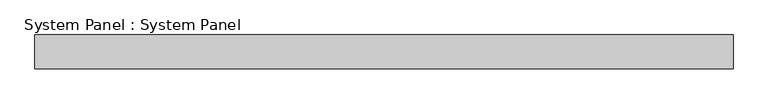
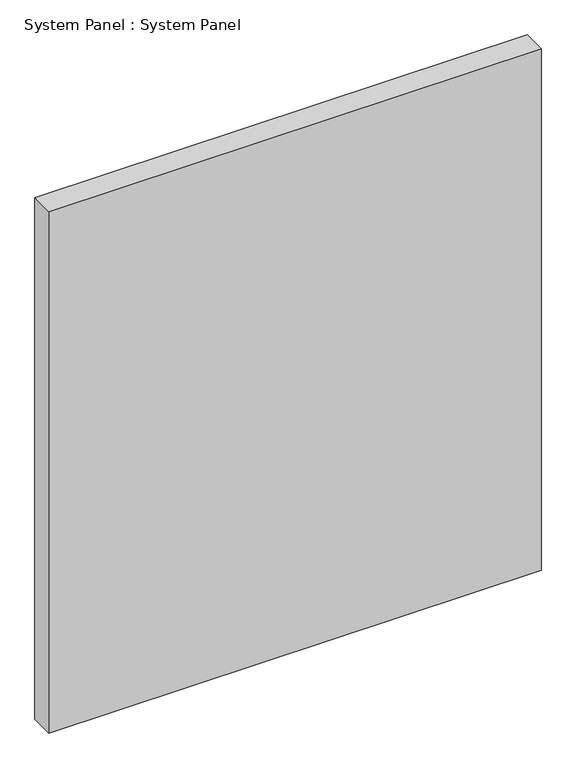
"""IFC4 building model written with IfcOpenShell, lengths in millimetres: plate geometry, System Panel : System Panel."""

from ifc_helpers import new_model, si_unit, origin, origin_with_axes, place, context, project, spatial, polyline, outline, extrude, source, transform, mapped, element, save


def system_panel_system_panel_769dcaa2(model_context):
    return source(origin(), model_context, "Body", "SweptSolid", [
        extrude(outline(polyline([(1054.8694758, -50.8), (-1054.8694758, -50.8), (-1054.8694758, 50.8), (1054.8694758, 50.8), (1054.8694758, -50.8)])), origin_with_axes(), (0.0, 0.0, 1.0), 2362.2),
    ])


if __name__ == "__main__":
    model = new_model("IFC4")
    model_context = context("Model", 3, world=origin())
    ifc_project = project(units=[si_unit("LENGTHUNIT", "METRE", prefix="MILLI")], contexts=[model_context])
    site = spatial("IfcSite", under=ifc_project)
    building = spatial("IfcBuilding", under=site)
    placement = place(None, origin())
    system_panel_system_panel_shape = system_panel_system_panel_769dcaa2(model_context)
    element("IfcPlate", 1, ObjectType="System Panel : System Panel", at=placement, inside=building, context=model_context, shape_type="MappedRepresentation", body=[
        mapped(system_panel_system_panel_shape, transform((0.0, 0.0, 0.0), x_axis=(1.0, 0.0, 0.0), y_axis=(0.0, 1.0, 0.0), z_axis=(0.0, 0.0, 1.0))),
    ])
    save(model, "model.ifc")
